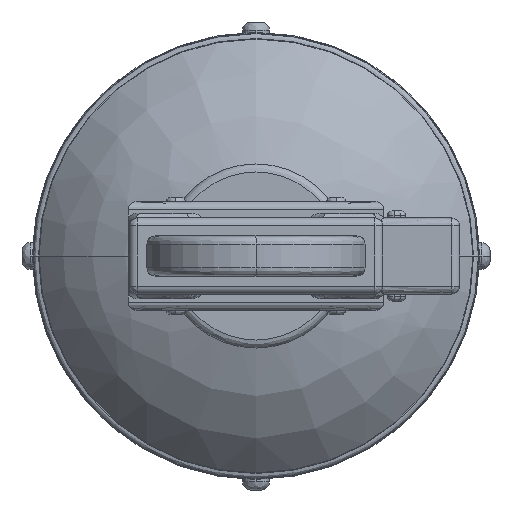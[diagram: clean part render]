
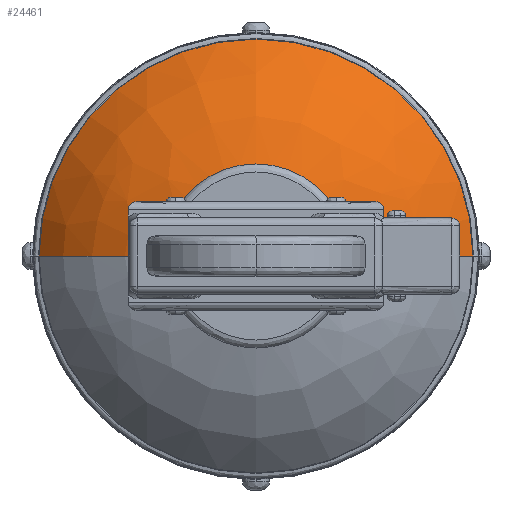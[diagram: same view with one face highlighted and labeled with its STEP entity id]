
A CAD part, front view. The second image highlights one B-rep face of the part: STEP entity #24461.
In plain terms, the highlighted free-form (B-spline) face has degree [3, 3] with [4, 4] control points.
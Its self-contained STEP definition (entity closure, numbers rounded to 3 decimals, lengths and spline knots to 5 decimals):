
#1725=(
BOUNDED_CURVE()
B_SPLINE_CURVE(3,(#41506,#41507,#41508,#41509),.UNSPECIFIED.,.F.,.F.)
B_SPLINE_CURVE_WITH_KNOTS((4,4),(0.,1.),.PIECEWISE_BEZIER_KNOTS.)
CURVE()
GEOMETRIC_REPRESENTATION_ITEM()
RATIONAL_B_SPLINE_CURVE((1.,0.885,0.885,1.))
REPRESENTATION_ITEM('')
);
#1726=(
BOUNDED_CURVE()
B_SPLINE_CURVE(3,(#41511,#41512,#41513,#41514),.UNSPECIFIED.,.F.,.F.)
B_SPLINE_CURVE_WITH_KNOTS((4,4),(0.,1.),.PIECEWISE_BEZIER_KNOTS.)
CURVE()
GEOMETRIC_REPRESENTATION_ITEM()
RATIONAL_B_SPLINE_CURVE((1.,0.885,0.885,1.))
REPRESENTATION_ITEM('')
);
#1970=CIRCLE('',#32805,0.03415);
#1971=CIRCLE('',#32806,0.0145);
#3404=(
BOUNDED_SURFACE()
B_SPLINE_SURFACE(3,3,((#41487,#41488,#41489,#41490),(#41491,#41492,#41493,
#41494),(#41495,#41496,#41497,#41498),(#41499,#41500,#41501,#41502)),
 .TOROIDAL_SURF.,.F.,.F.,.F.)
B_SPLINE_SURFACE_WITH_KNOTS((4,4),(4,4),(0.09242,0.64866),
(0.5,1.),.PIECEWISE_BEZIER_KNOTS.)
GEOMETRIC_REPRESENTATION_ITEM()
RATIONAL_B_SPLINE_SURFACE(((0.971,0.324,0.324,
0.971),(0.919,0.306,0.306,
0.919),(0.903,0.301,0.301,
0.903),(0.922,0.307,0.307,
0.922)))
REPRESENTATION_ITEM('')
SURFACE()
);
#4772=ORIENTED_EDGE('',*,*,#12006,.F.);
#4773=ORIENTED_EDGE('',*,*,#12007,.T.);
#4774=ORIENTED_EDGE('',*,*,#12008,.T.);
#4775=ORIENTED_EDGE('',*,*,#12009,.F.);
#12006=EDGE_CURVE('',#15663,#15664,#1970,.T.);
#12007=EDGE_CURVE('',#15663,#15661,#1725,.T.);
#12008=EDGE_CURVE('',#15661,#15662,#1971,.T.);
#12009=EDGE_CURVE('',#15664,#15662,#1726,.T.);
#15661=VERTEX_POINT('',#41482);
#15662=VERTEX_POINT('',#41484);
#15663=VERTEX_POINT('',#41504);
#15664=VERTEX_POINT('',#41505);
#21259=EDGE_LOOP('',(#4772,#4773,#4774,#4775));
#22620=FACE_BOUND('',#21259,.T.);
#24461=ADVANCED_FACE('',(#22620),#3404,.T.);
#32805=AXIS2_PLACEMENT_3D('',#41503,#34580,#34581);
#32806=AXIS2_PLACEMENT_3D('',#41510,#34582,#34583);
#34580=DIRECTION('',(0.,1.,0.));
#34581=DIRECTION('',(1.,0.,0.));
#34582=DIRECTION('',(0.,1.,0.));
#34583=DIRECTION('',(1.,0.,0.));
#41482=CARTESIAN_POINT('',(-0.0145,-0.07364,0.));
#41484=CARTESIAN_POINT('',(0.0145,-0.07364,0.));
#41487=CARTESIAN_POINT('',(-0.03415,-0.06114,0.));
#41488=CARTESIAN_POINT('',(-0.03415,-0.06114,0.06831));
#41489=CARTESIAN_POINT('',(0.03415,-0.06114,0.06831));
#41490=CARTESIAN_POINT('',(0.03415,-0.06114,0.));
#41491=CARTESIAN_POINT('',(-0.0292,-0.06741,0.));
#41492=CARTESIAN_POINT('',(-0.0292,-0.06741,0.0584));
#41493=CARTESIAN_POINT('',(0.0292,-0.06741,0.0584));
#41494=CARTESIAN_POINT('',(0.0292,-0.06741,0.));
#41495=CARTESIAN_POINT('',(-0.02242,-0.07178,0.));
#41496=CARTESIAN_POINT('',(-0.02242,-0.07178,0.04484));
#41497=CARTESIAN_POINT('',(0.02242,-0.07178,0.04484));
#41498=CARTESIAN_POINT('',(0.02242,-0.07178,0.));
#41499=CARTESIAN_POINT('',(-0.0145,-0.07364,0.));
#41500=CARTESIAN_POINT('',(-0.0145,-0.07364,0.02899));
#41501=CARTESIAN_POINT('',(0.0145,-0.07364,0.02899));
#41502=CARTESIAN_POINT('',(0.0145,-0.07364,0.));
#41503=CARTESIAN_POINT('',(0.,-0.06114,0.));
#41504=CARTESIAN_POINT('',(-0.03415,-0.06114,0.));
#41505=CARTESIAN_POINT('',(0.03415,-0.06114,0.));
#41506=CARTESIAN_POINT('',(-0.0363,-0.05811,0.));
#41507=CARTESIAN_POINT('',(-0.02834,-0.07072,0.));
#41508=CARTESIAN_POINT('',(-0.01467,-0.0767,0.));
#41509=CARTESIAN_POINT('',(0.,-0.07398,0.));
#41510=CARTESIAN_POINT('',(0.,-0.07364,0.));
#41511=CARTESIAN_POINT('',(0.0363,-0.05811,0.));
#41512=CARTESIAN_POINT('',(0.02834,-0.07072,0.));
#41513=CARTESIAN_POINT('',(0.01467,-0.0767,0.));
#41514=CARTESIAN_POINT('',(0.,-0.07398,0.));
